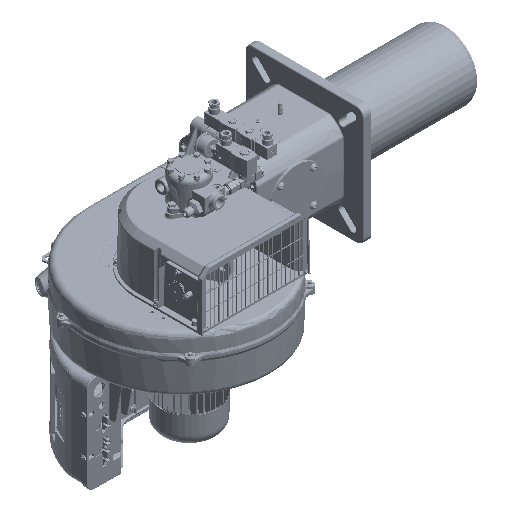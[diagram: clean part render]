
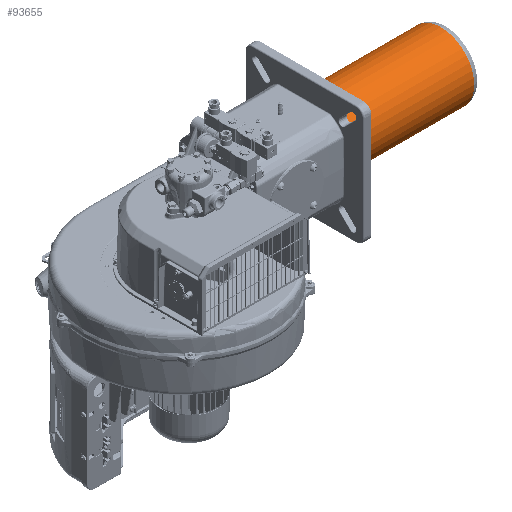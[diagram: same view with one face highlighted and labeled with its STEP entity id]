
A CAD part, isometric view. The second image highlights one B-rep face of the part: STEP entity #93655.
In plain terms, the highlighted cylindrical face has radius 90 mm (diameter 180 mm), a full revolution.
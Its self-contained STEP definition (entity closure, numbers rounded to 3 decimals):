
#93655=ADVANCED_FACE('',(#215945,#215947),#215949,.T.);
#215945=FACE_OUTER_BOUND('',#215946,.T.);
#215946=EDGE_LOOP('',(#305424));
#215947=FACE_OUTER_BOUND('',#215948,.T.);
#215948=EDGE_LOOP('',(#305425));
#215949=CYLINDRICAL_SURFACE('',#215950,90.);
#215950=AXIS2_PLACEMENT_3D('',#215951,#215952,#215953);
#215951=CARTESIAN_POINT('',(499.518,202.5,-20.));
#215952=DIRECTION('',(-1.,0.,0.));
#215953=DIRECTION('',(0.,1.,0.));
#305424=ORIENTED_EDGE('',*,*,#363758,.F.);
#305425=ORIENTED_EDGE('',*,*,#363682,.F.);
#363682=EDGE_CURVE('',#555008,#555008,#555009,.T.);
#363758=EDGE_CURVE('',#555136,#555136,#555137,.T.);
#555008=VERTEX_POINT('',#764973);
#555009=CIRCLE('',#764974,90.);
#555136=VERTEX_POINT('',#765257);
#555137=CIRCLE('',#765258,90.);
#764973=CARTESIAN_POINT('',(528.5,202.5,70.));
#764974=AXIS2_PLACEMENT_3D('',#764975,#764976,#764977);
#764975=CARTESIAN_POINT('',(528.5,202.5,-20.));
#764976=DIRECTION('',(-1.,0.,0.));
#764977=DIRECTION('',(0.,0.,1.));
#765257=CARTESIAN_POINT('',(882.574,202.5,70.));
#765258=AXIS2_PLACEMENT_3D('',#765259,#765260,#765261);
#765259=CARTESIAN_POINT('',(882.574,202.5,-20.));
#765260=DIRECTION('',(1.,0.,0.));
#765261=DIRECTION('',(0.,0.,1.));
